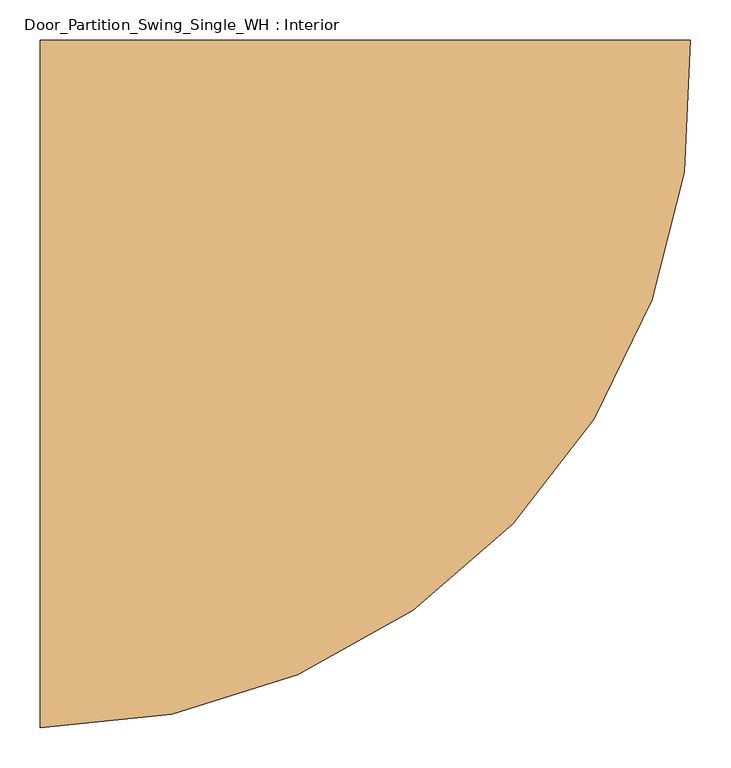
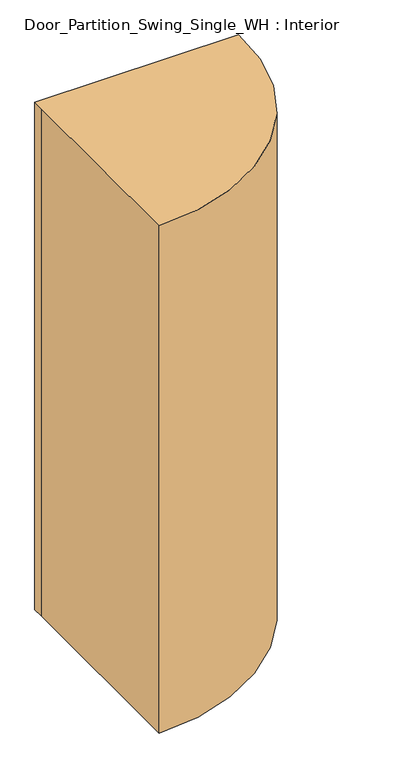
"""IFC4 building model written with IfcOpenShell, lengths in millimetres: door geometry, Door_Partition_Swing_Single_WH : Interior."""

from ifc_helpers import new_model, si_unit, point, frame_2d, origin, origin_with_axes, place, context, project, spatial, polyline, circle_curve, trimmed, segment, composite_curve, outline, extrude, source, transform, mapped, element, save


def door_partition_swing_single_wh_interior_e698f6d7(model_context):
    return source(origin(), model_context, "Body", "SweptSolid", [
        extrude(outline(composite_curve([segment(polyline([(-388.0346798, -80.55), (423.5489803, -80.55)]), True, "CONTINUOUS"), segment(trimmed(circle_curve(frame_2d((-388.0346798, -125.0)), 812.8), [point((423.5489803, -80.55))], [point((-388.0346798, -937.8))], False, "CARTESIAN"), True, "CONTINUOUS"), segment(polyline([(-388.0346798, -937.8), (-388.0346798, -125.0), (-388.0346798, -80.55)]), True, "CONTINUOUS")], self_intersect=False)), origin_with_axes(), (0.0, 0.0, 1.0), 2133.6),
    ])


if __name__ == "__main__":
    model = new_model("IFC4")
    model_context = context("Model", 3, world=origin())
    ifc_project = project(units=[si_unit("LENGTHUNIT", "METRE", prefix="MILLI")], contexts=[model_context])
    site = spatial("IfcSite", under=ifc_project)
    building = spatial("IfcBuilding", under=site)
    placement = place(None, origin())
    door_partition_swing_single_wh_interior_shape = door_partition_swing_single_wh_interior_e698f6d7(model_context)
    element("IfcDoor", 1, ObjectType="Door_Partition_Swing_Single_WH : Interior", at=placement, inside=building, context=model_context, shape_type="MappedRepresentation", body=[
        mapped(door_partition_swing_single_wh_interior_shape, transform((0.0, 0.0, 0.0), x_axis=(1.0, 0.0, 0.0), y_axis=(0.0, 1.0, 0.0), z_axis=(0.0, 0.0, 1.0))),
    ])
    save(model, "model.ifc")
